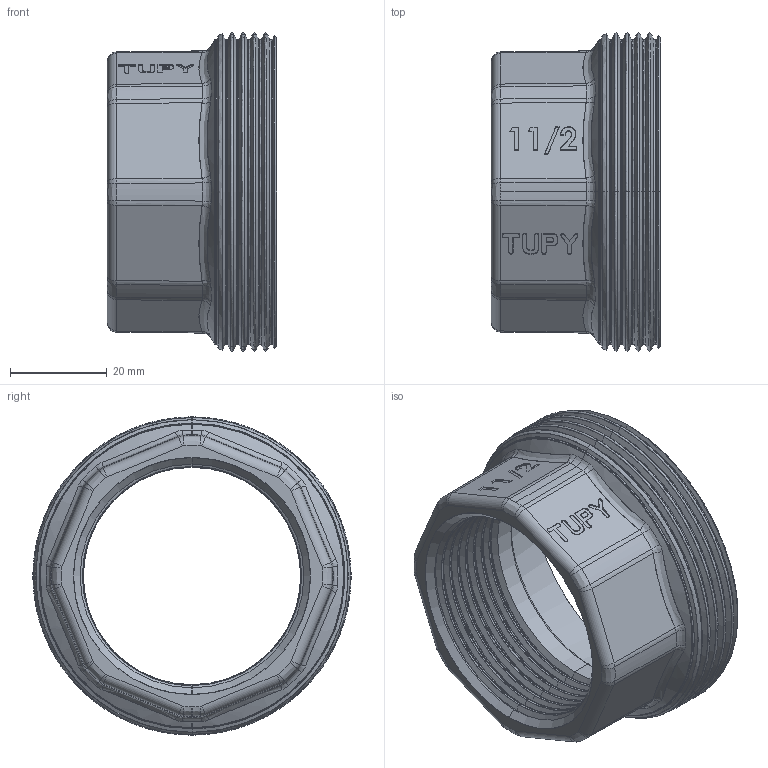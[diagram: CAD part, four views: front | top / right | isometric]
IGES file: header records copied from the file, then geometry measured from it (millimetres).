
Start section: SolidWorks IGES file using analytic representation for surfaces
Global section: file name: C:\Users\alan.martins\Desktop\Nova pasta\12-77-009.IGS; native system: SolidWorks 2012; preprocessor: SolidWorks 2012; author: alan.martins; date: 160323.151615; units: millimetre
Bounding box: 35 x 65.7 x 65.7 mm (x, y, z)
Surface area: 17507.7 mm2 (no closed solid volume)
Topology: 0 solids, 0 shells, 353 faces, 2112 edges, 2112 vertices
Faces by surface type: bspline 268, revolution 85
